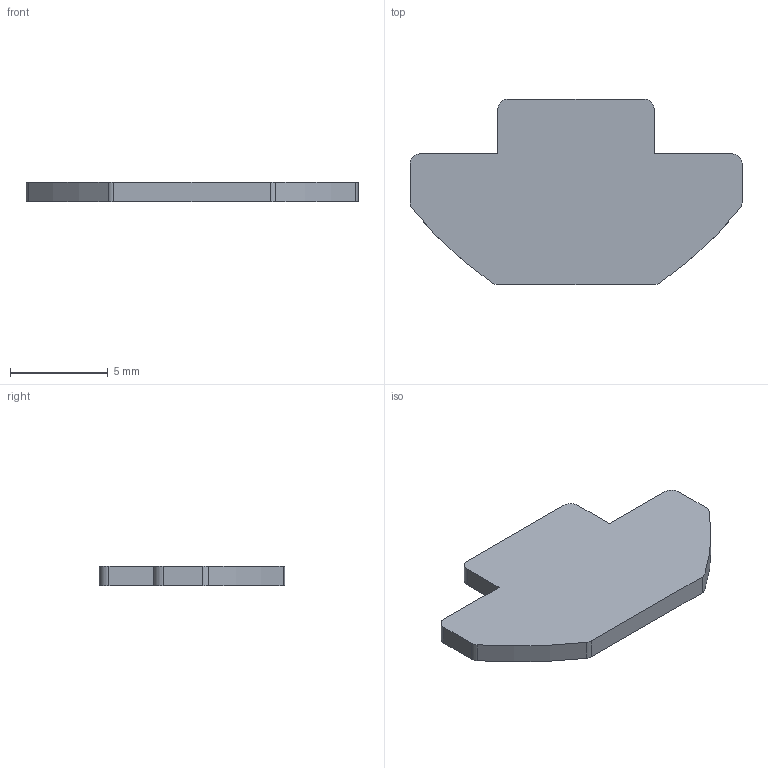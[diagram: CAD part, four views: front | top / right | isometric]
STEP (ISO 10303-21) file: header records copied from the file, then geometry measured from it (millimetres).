
FILE_DESCRIPTION((''),'2;1');
FILE_NAME('V:\Alutop\Bibliothek\Zubehoer 8\ProStSs.ipt.stp','2008-11-25T17:32:19',(''),(''),'Autodesk Inventor 11','Autodesk Inventor 11','');
FILE_SCHEMA(('AUTOMOTIVE_DESIGN { 1 0 10303 214 1 1 1 1 }'));
Length unit declared in the file: millimetre
Products named in the file (1): ProStSs
Bounding box: 17 x 9.5 x 1 mm (x, y, z)
Volume: 120.3 mm3; surface area: 287.9 mm2
Topology: 1 solids, 1 shells, 20 faces, 54 edges, 36 vertices
Faces by surface type: cylinder 10, plane 10
Entity records: 661 total; most frequent: DIRECTION 116, CARTESIAN_POINT 111, ORIENTED_EDGE 108, EDGE_CURVE 54, AXIS2_PLACEMENT_3D 41, VERTEX_POINT 36, VECTOR 34, LINE 34
